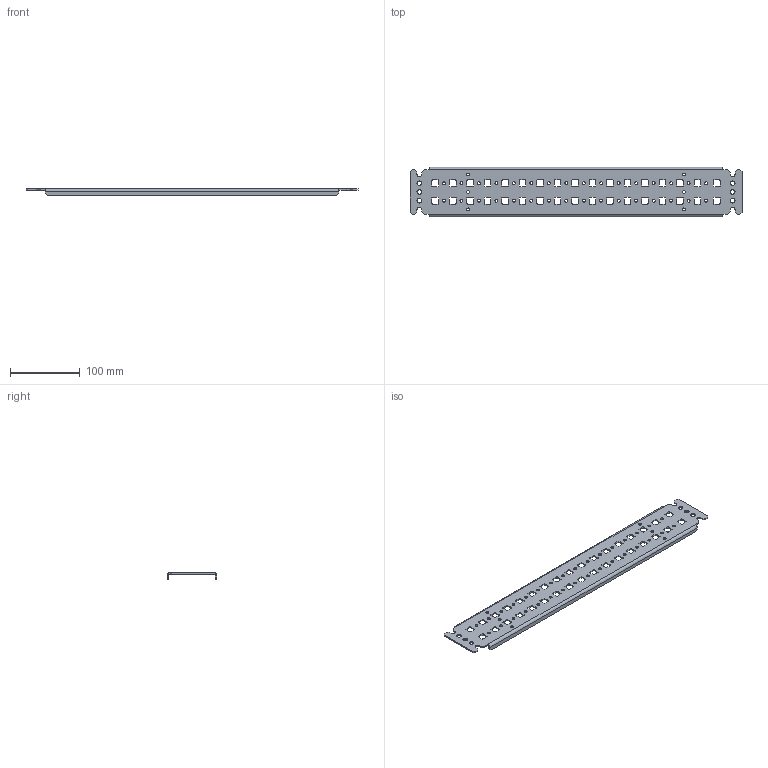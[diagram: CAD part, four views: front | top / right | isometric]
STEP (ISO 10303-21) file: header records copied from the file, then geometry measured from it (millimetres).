
FILE_DESCRIPTION (( 'STEP AP214' ), '1' );
FILE_NAME ('MG 50.06 R Ðåéêà ìîíòàæíàÿ.STEP', '2022-09-07T08:54:30', ( '' ), ( '' ), 'SwSTEP 2.0', 'SolidWorks 2018', '' );
FILE_SCHEMA (( 'AUTOMOTIVE_DESIGN' ));
Length unit declared in the file: millimetre
Products named in the file (1): MG 50.06 R Ðåéêà ìîíòàæíàÿ
Bounding box: 475 x 70.91 x 9.3 mm (x, y, z)
Volume: 68558.4 mm3; surface area: 74602.6 mm2
Topology: 1 solids, 1 shells, 418 faces, 1232 edges, 816 vertices
Faces by surface type: cylinder 232, plane 186
Entity records: 14418 total; most frequent: DIRECTION 2534, CARTESIAN_POINT 2467, ORIENTED_EDGE 2464, EDGE_CURVE 1232, AXIS2_PLACEMENT_3D 883, VERTEX_POINT 816, LINE 768, VECTOR 768
